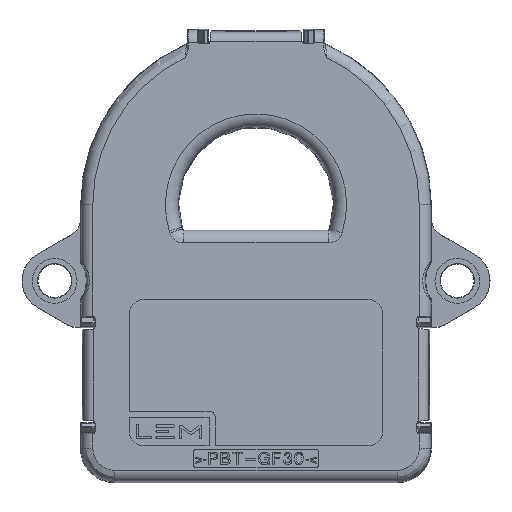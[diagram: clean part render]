
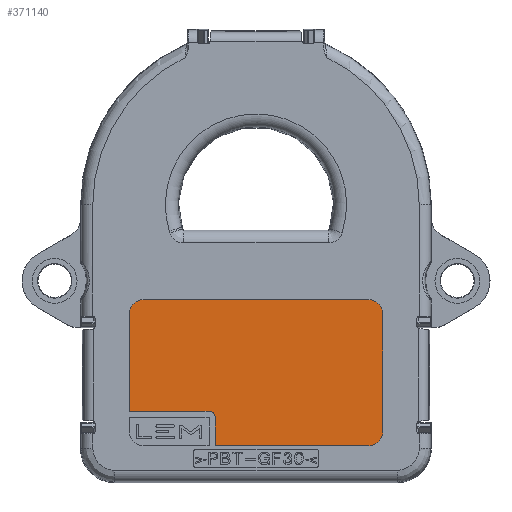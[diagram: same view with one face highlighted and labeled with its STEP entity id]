
A CAD part, top view. The second image highlights one B-rep face of the part: STEP entity #371140.
In plain terms, the highlighted planar face has unit normal (0, 0, 1).
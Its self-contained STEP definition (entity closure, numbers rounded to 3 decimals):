
#370230=CARTESIAN_POINT('',(50.398,61.974,
5.115));
#370240=DIRECTION('',(0.,0.,1.));
#370250=DIRECTION('',(0.,1.,0.));
#370260=AXIS2_PLACEMENT_3D('',#370230,#370240,#370250);
#370270=PLANE('',#370260);
#370280=CARTESIAN_POINT('',(41.098,41.974,
5.115));
#370290=DIRECTION('',(1.,0.,0.));
#370300=VECTOR('',#370290,1.);
#370310=LINE('',#370280,#370300);
#370320=CARTESIAN_POINT('',(41.098,41.974,
5.115));
#370330=VERTEX_POINT('',#370320);
#370340=CARTESIAN_POINT('',(56.498,41.974,
5.115));
#370350=VERTEX_POINT('',#370340);
#370360=EDGE_CURVE('',#370330,#370350,#370310,.T.);
#370370=ORIENTED_EDGE('',*,*,#370360,.T.);
#370380=CARTESIAN_POINT('',(41.098,44.174,
5.115));
#370390=DIRECTION('',(0.,0.,1.));
#370400=DIRECTION('',(-1.,0.,0.));
#370410=AXIS2_PLACEMENT_3D('',#370380,#370390,#370400);
#370420=CIRCLE('',#370410,2.2);
#370430=CARTESIAN_POINT('',(38.898,44.174,
5.115));
#370440=VERTEX_POINT('',#370430);
#370450=EDGE_CURVE('',#370440,#370330,#370420,.T.);
#370460=ORIENTED_EDGE('',*,*,#370450,.T.);
#370470=CARTESIAN_POINT('',(38.898,79.774,
5.115));
#370480=DIRECTION('',(0.,-1.,0.));
#370490=VECTOR('',#370480,1.);
#370500=LINE('',#370470,#370490);
#370510=CARTESIAN_POINT('',(38.898,79.774,
5.115));
#370520=VERTEX_POINT('',#370510);
#370530=EDGE_CURVE('',#370520,#370440,#370500,.T.);
#370540=ORIENTED_EDGE('',*,*,#370530,.T.);
#370550=CARTESIAN_POINT('',(41.098,79.774,
5.115));
#370560=DIRECTION('',(0.,0.,1.));
#370570=DIRECTION('',(0.,1.,0.));
#370580=AXIS2_PLACEMENT_3D('',#370550,#370560,#370570);
#370590=CIRCLE('',#370580,2.2);
#370600=CARTESIAN_POINT('',(41.098,81.974,
5.115));
#370610=VERTEX_POINT('',#370600);
#370620=EDGE_CURVE('',#370610,#370520,#370590,.T.);
#370630=ORIENTED_EDGE('',*,*,#370620,.T.);
#370640=CARTESIAN_POINT('',(59.698,81.974,
5.115));
#370650=DIRECTION('',(-1.,0.,0.));
#370660=VECTOR('',#370650,1.);
#370670=LINE('',#370640,#370660);
#370680=CARTESIAN_POINT('',(59.698,81.974,
5.115));
#370690=VERTEX_POINT('',#370680);
#370700=EDGE_CURVE('',#370690,#370610,#370670,.T.);
#370710=ORIENTED_EDGE('',*,*,#370700,.T.);
#370720=CARTESIAN_POINT('',(59.698,79.774,
5.115));
#370730=DIRECTION('',(0.,0.,1.));
#370740=DIRECTION('',(1.,0.,0.));
#370750=AXIS2_PLACEMENT_3D('',#370720,#370730,#370740);
#370760=CIRCLE('',#370750,2.2);
#370770=CARTESIAN_POINT('',(61.898,79.774,
5.115));
#370780=VERTEX_POINT('',#370770);
#370790=EDGE_CURVE('',#370780,#370690,#370760,.T.);
#370800=ORIENTED_EDGE('',*,*,#370790,.T.);
#370810=CARTESIAN_POINT('',(61.898,55.569,
5.115));
#370820=DIRECTION('',(0.,1.,0.));
#370830=VECTOR('',#370820,1.);
#370840=LINE('',#370810,#370830);
#370850=CARTESIAN_POINT('',(61.898,55.569,
5.115));
#370860=VERTEX_POINT('',#370850);
#370870=EDGE_CURVE('',#370860,#370780,#370840,.T.);
#370880=ORIENTED_EDGE('',*,*,#370870,.T.);
#370890=CARTESIAN_POINT('',(57.498,55.569,
5.115));
#370900=DIRECTION('',(1.,0.,0.));
#370910=VECTOR('',#370900,1.);
#370920=LINE('',#370890,#370910);
#370930=CARTESIAN_POINT('',(57.498,55.569,
5.115));
#370940=VERTEX_POINT('',#370930);
#370950=EDGE_CURVE('',#370940,#370860,#370920,.T.);
#370960=ORIENTED_EDGE('',*,*,#370950,.T.);
#370970=CARTESIAN_POINT('',(57.498,54.569,
5.115));
#370980=DIRECTION('',(0.,0.,-1.));
#370990=DIRECTION('',(-1.,0.,0.));
#371000=AXIS2_PLACEMENT_3D('',#370970,#370980,#370990);
#371010=CIRCLE('',#371000,1.);
#371020=CARTESIAN_POINT('',(56.498,54.569,
5.115));
#371030=VERTEX_POINT('',#371020);
#371040=EDGE_CURVE('',#371030,#370940,#371010,.T.);
#371050=ORIENTED_EDGE('',*,*,#371040,.T.);
#371060=CARTESIAN_POINT('',(56.498,41.974,
5.115));
#371070=DIRECTION('',(0.,1.,0.));
#371080=VECTOR('',#371070,1.);
#371090=LINE('',#371060,#371080);
#371100=EDGE_CURVE('',#370350,#371030,#371090,.T.);
#371110=ORIENTED_EDGE('',*,*,#371100,.T.);
#371120=EDGE_LOOP('',(#371110,#371050,#370960,#370880,#370800,#370710,
#370630,#370540,#370460,#370370));
#371130=FACE_OUTER_BOUND('',#371120,.T.);
#371140=ADVANCED_FACE('',(#371130),#370270,.T.);
